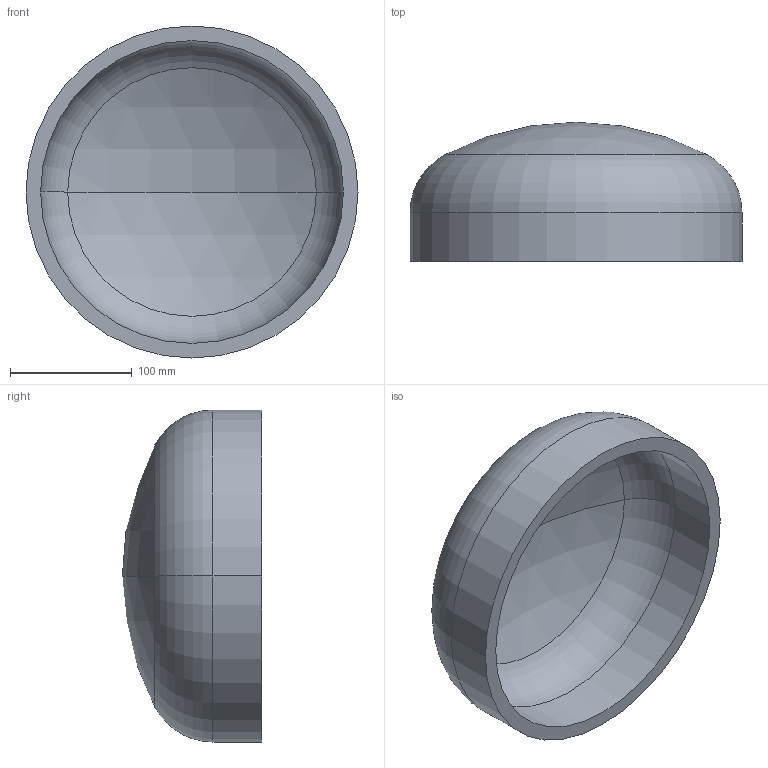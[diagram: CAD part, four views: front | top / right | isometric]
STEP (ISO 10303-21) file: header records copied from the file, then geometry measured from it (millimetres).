
FILE_DESCRIPTION (( 'STEP AP203' ), '1' );
FILE_NAME ('DIN 28013 Korbbogenform_-_Boden DIN 28013 - 273 x 40 - I - s=12.step', '2016-07-01T07:43:10', ( '' ), ( '' ), 'SwSTEP 2.0', 'SolidWorks 2013', '' );
FILE_SCHEMA (( 'CONFIG_CONTROL_DESIGN' ));
Length unit declared in the file: millimetre
Products named in the file (1): DIN 28013 Korbbogenform_-_Boden DIN 28013 - 273 x 40 - I - s=12
Bounding box: 273 x 114.53 x 273 mm (x, y, z)
Volume: 1312648.9 mm3; surface area: 228915.8 mm2
Topology: 1 solids, 1 shells, 13 faces, 24 edges, 14 vertices
Faces by surface type: torus 4, cylinder 4, sphere 4, plane 1
Entity records: 407 total; most frequent: DIRECTION 72, CARTESIAN_POINT 52, ORIENTED_EDGE 48, AXIS2_PLACEMENT_3D 34, EDGE_CURVE 24, CIRCLE 20, VERTEX_POINT 14, EDGE_LOOP 14
